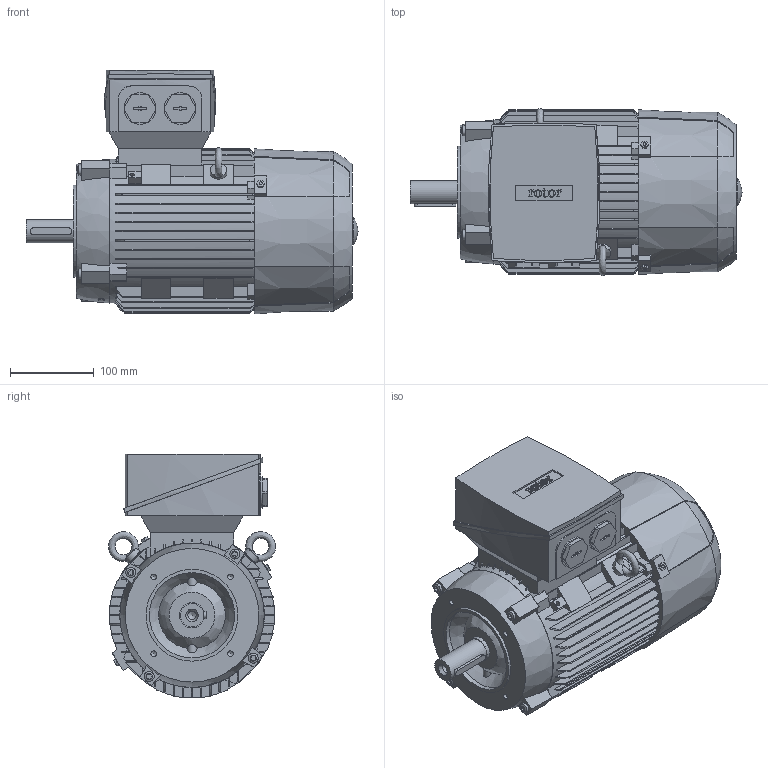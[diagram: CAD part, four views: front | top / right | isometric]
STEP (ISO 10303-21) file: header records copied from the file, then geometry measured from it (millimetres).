
FILE_DESCRIPTION (( 'STEP AP214' ), '1' );
FILE_NAME ('6RN100L08E14 IM3641-A.STEP', '2017-03-31T11:28:09', ( 'rbc_ict' ), ( '' ), 'SwSTEP 2.0', 'SolidWorks 2015', '' );
FILE_SCHEMA (( 'AUTOMOTIVE_DESIGN' ));
Length unit declared in the file: millimetre
Products named in the file (1): 6RN100L08E14 IM3641-A
Bounding box: 397.5 x 199.97 x 292 mm (x, y, z)
Volume: 10482446 mm3; surface area: 509779.5 mm2
Topology: 7 solids, 7 shells, 774 faces, 2112 edges, 1401 vertices
Faces by surface type: plane 501, bspline 142, cylinder 105, cone 26
Full cylindrical faces by diameter (mm): 5 x2, 6.65 x4, 6.7 x3, 8 x2, 8.16 x1, 10 x1, 12 x4, 20 x2, 28 x1, 30 x1, 32 x1, 38 x2, 102 x1, 110 x1
Entity records: 36145 total; most frequent: CARTESIAN_POINT 10398, ORIENTED_EDGE 4086, DIRECTION 3162, EDGE_CURVE 2043, VERTEX_POINT 1378, LINE 1214, VECTOR 1214, AXIS2_PLACEMENT_3D 974
